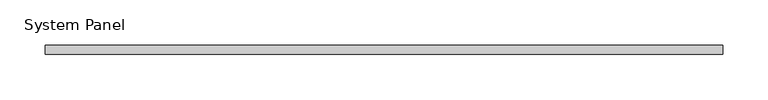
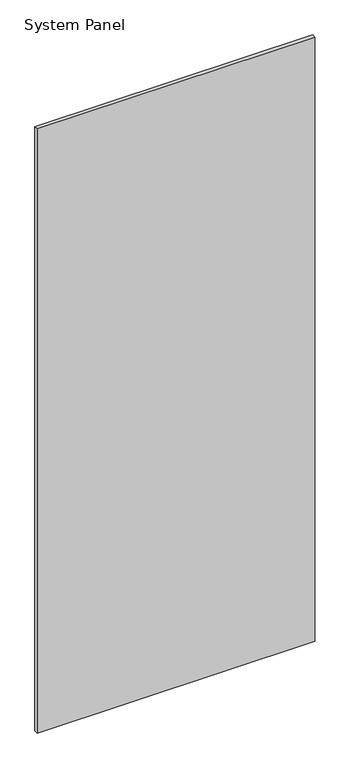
"""IFC4 building model written with IfcOpenShell, lengths in millimetres: plate geometry, System Panel : стекло_смещение_0."""

from ifc_helpers import new_model, si_unit, origin, origin_with_axes, place, context, project, spatial, polyline, outline, extrude, source, transform, mapped, element, save


def system_panel_461caed9(model_context):
    return source(origin(), model_context, "Body", "SweptSolid", [
        extrude(outline(polyline([(375.0, -5.0), (-375.0, -5.0), (-375.0, 5.0), (375.0, 5.0), (375.0, -5.0)])), origin_with_axes(), (0.0, 0.0, 1.0), 1725.0),
    ])


if __name__ == "__main__":
    model = new_model("IFC4")
    model_context = context("Model", 3, world=origin())
    ifc_project = project(units=[si_unit("LENGTHUNIT", "METRE", prefix="MILLI")], contexts=[model_context])
    site = spatial("IfcSite", under=ifc_project)
    building = spatial("IfcBuilding", under=site)
    placement = place(None, origin())
    system_panel_shape = system_panel_461caed9(model_context)
    element("IfcPlate", 1, ObjectType="System Panel : стекло_смещение_0", at=placement, inside=building, context=model_context, shape_type="MappedRepresentation", body=[
        mapped(system_panel_shape, transform((0.0, 0.0, 0.0), x_axis=(1.0, 0.0, 0.0), y_axis=(0.0, 1.0, 0.0), z_axis=(0.0, 0.0, 1.0))),
    ])
    save(model, "model.ifc")
